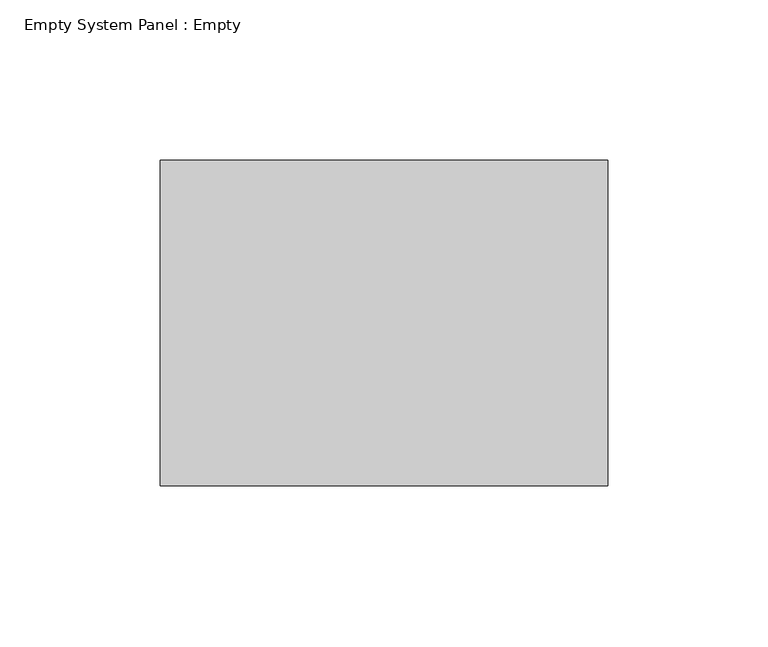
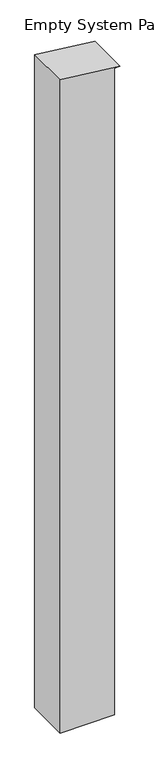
"""IFC4 building model written with IfcOpenShell, lengths in millimetres: plate geometry, Empty System Panel : Empty."""

from ifc_helpers import new_model, si_unit, frame, origin, place, context, project, spatial, polyline, outline, extrude, source, transform, mapped, element, save


def empty_system_panel_empty_ddd8ef9b(model_context):
    return source(origin(), model_context, "Body", "SweptSolid", [
        extrude(outline(polyline([(0.0, -69.85), (0.0, 57.15), (1587.9335765, 57.15), (1587.9335765, 69.85), (1603.5587665, -69.85), (0.0, -69.85)])), frame((0.0, -50.8, 0.0), z_axis=(0.0, 1.0, 0.0), x_axis=(0.0, 0.0, 1.0)), (0.0, 0.0, 1.0), 101.6),
    ])


if __name__ == "__main__":
    model = new_model("IFC4")
    model_context = context("Model", 3, world=origin())
    ifc_project = project(units=[si_unit("LENGTHUNIT", "METRE", prefix="MILLI")], contexts=[model_context])
    site = spatial("IfcSite", under=ifc_project)
    building = spatial("IfcBuilding", under=site)
    placement = place(None, origin())
    empty_system_panel_empty_shape = empty_system_panel_empty_ddd8ef9b(model_context)
    element("IfcPlate", 1, ObjectType="Empty System Panel : Empty", at=placement, inside=building, context=model_context, shape_type="MappedRepresentation", body=[
        mapped(empty_system_panel_empty_shape, transform((0.0, 0.0, 0.0), x_axis=(1.0, 0.0, 0.0), y_axis=(0.0, 1.0, 0.0), z_axis=(0.0, 0.0, 1.0))),
    ])
    save(model, "model.ifc")
